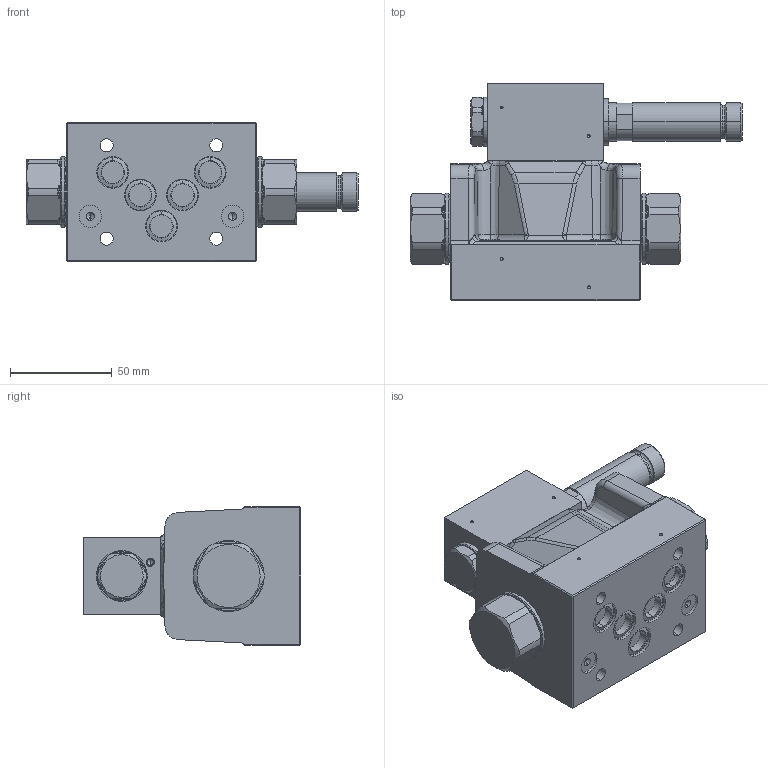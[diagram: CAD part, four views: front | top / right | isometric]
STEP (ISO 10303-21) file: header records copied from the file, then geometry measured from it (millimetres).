
FILE_DESCRIPTION (( 'STEP AP214' ), '1' );
FILE_NAME ('WVMFA10-4_2-Bside-ae_ti_xi_xe.STEP', '2017-06-15T07:25:33', ( '' ), ( '' ), 'SwSTEP 2.0', 'SolidWorks 2016', '' );
FILE_SCHEMA (( 'AUTOMOTIVE_DESIGN' ));
Length unit declared in the file: millimetre
Products named in the file (1): WVMFA10-4_2-Bside-ae_ti_xi_xe
Bounding box: 163.5 x 107.1 x 68 mm (x, y, z)
Volume: 490944.4 mm3; surface area: 68692.8 mm2
Topology: 4 solids, 4 shells, 1475 faces, 3899 edges, 2491 vertices
Faces by surface type: plane 653, cylinder 501, bspline 134, cone 108, torus 79
Entity records: 67913 total; most frequent: CARTESIAN_POINT 15862, ORIENTED_EDGE 7734, DIRECTION 7255, EDGE_CURVE 3867, AXIS2_PLACEMENT_3D 2603, VERTEX_POINT 2491, VECTOR 2049, LINE 2049
